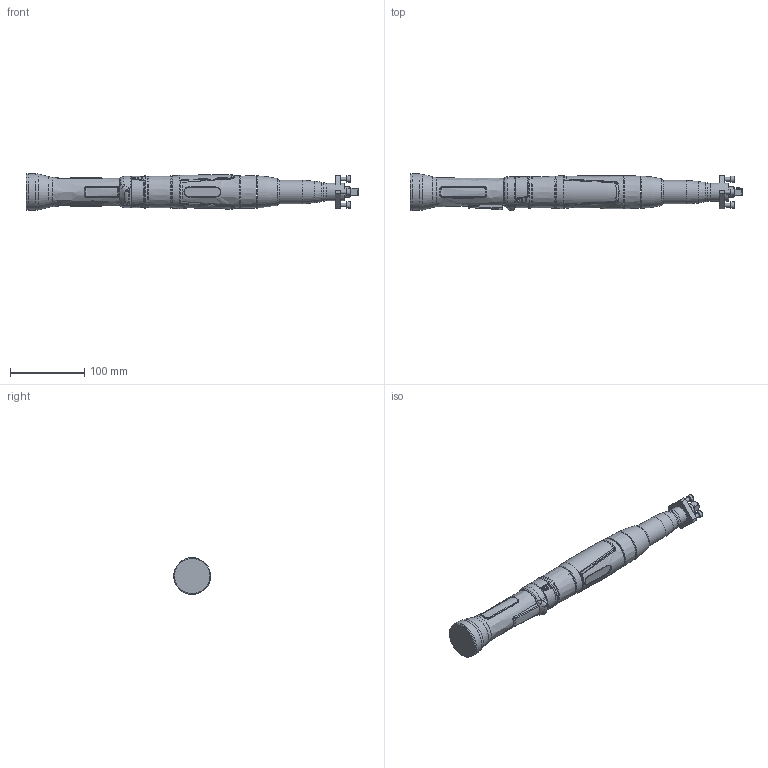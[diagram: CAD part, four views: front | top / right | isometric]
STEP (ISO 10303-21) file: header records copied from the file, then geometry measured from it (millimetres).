
FILE_DESCRIPTION (( 'STEP AP214' ), '1' );
FILE_NAME ('70058348_HSX1040ZV38.STEP', '2016-11-17T07:49:25', ( 'admin' ), ( '' ), 'SwSTEP 2.0', 'SolidWorks 2014', '' );
FILE_SCHEMA (( 'AUTOMOTIVE_DESIGN' ));
Length unit declared in the file: millimetre
Products named in the file (1): 70058348_HSX1040ZV38
Bounding box: 448 x 50.42 x 49.5 mm (x, y, z)
Volume: 490100.5 mm3; surface area: 80480.7 mm2
Topology: 4 solids, 4 shells, 976 faces, 2370 edges, 1398 vertices
Faces by surface type: bspline 338, cylinder 237, plane 197, torus 134, cone 42, sphere 28
Full cylindrical faces by diameter (mm): 1.7 x2, 3.8 x1, 4 x1, 5 x4, 8.5 x4, 14 x1, 24 x2, 31.7 x1, 38 x1, 39 x1, 39.5 x1, 40.5 x1, 42 x2, 43.3 x1, 43.5 x1, 49.5 x1
Entity records: 42066 total; most frequent: CARTESIAN_POINT 19950, ORIENTED_EDGE 4428, DIRECTION 3464, EDGE_CURVE 2214, AXIS2_PLACEMENT_3D 1455, VERTEX_POINT 1358, EDGE_LOOP 1104, FACE_OUTER_BOUND 1041
